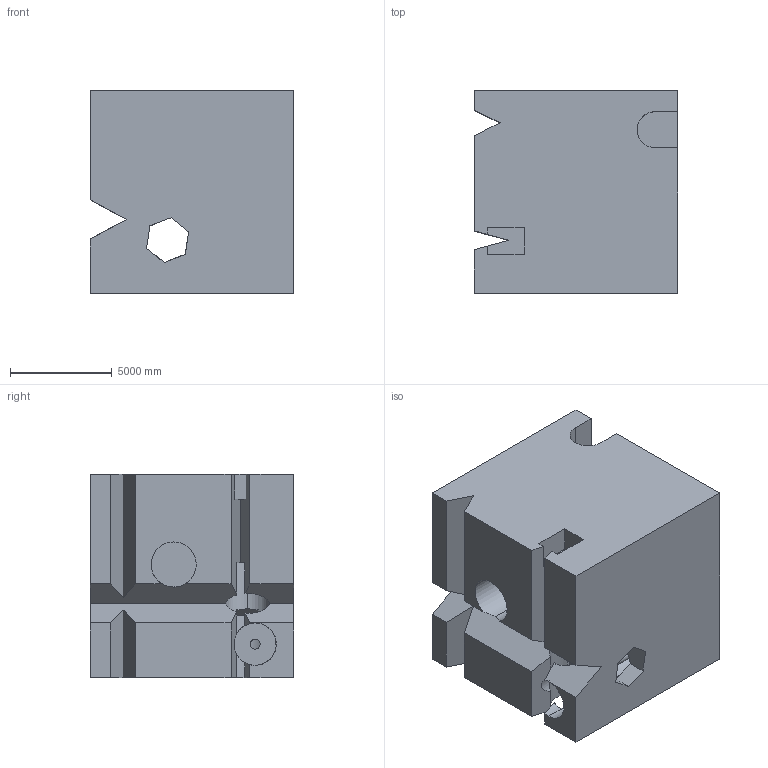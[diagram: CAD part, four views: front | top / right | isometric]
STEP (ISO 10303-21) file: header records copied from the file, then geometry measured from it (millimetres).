
FILE_DESCRIPTION (( 'STEP AP203' ), '1' );
FILE_NAME ('185.STEP', '2022-08-31T12:16:33', ( 'user' ), ( '' ), 'SwSTEP 2.0', 'SolidWorks 2021', '' );
FILE_SCHEMA (( 'CONFIG_CONTROL_DESIGN' ));
Length unit declared in the file: centimetre
Products named in the file (1): 185
Bounding box: 10000 x 10000 x 10000 mm (x, y, z)
Volume: 858605745404 mm3; surface area: 817941777.1 mm2
Topology: 1 solids, 1 shells, 76 faces, 223 edges, 148 vertices
Faces by surface type: plane 58, cylinder 18
Entity records: 3110 total; most frequent: CARTESIAN_POINT 1082, ORIENTED_EDGE 446, DIRECTION 364, EDGE_CURVE 223, VECTOR 156, LINE 156, VERTEX_POINT 148, AXIS2_PLACEMENT_3D 104
